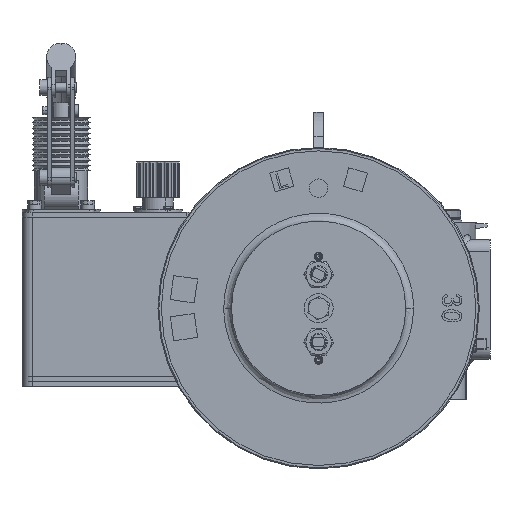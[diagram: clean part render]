
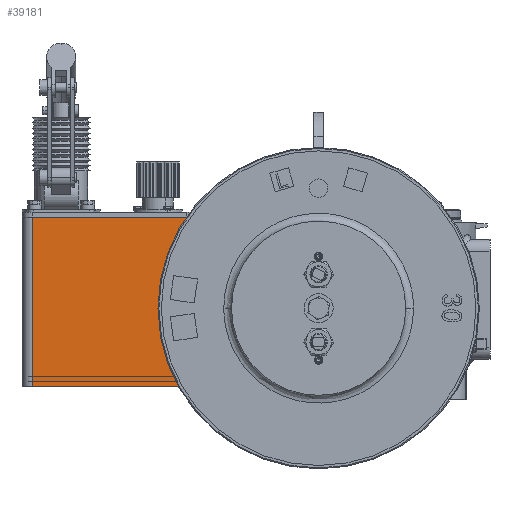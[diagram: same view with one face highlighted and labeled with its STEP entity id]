
A CAD part, left-side view. The second image highlights one B-rep face of the part: STEP entity #39181.
In plain terms, the highlighted planar face has unit normal (-1, 0, 0).
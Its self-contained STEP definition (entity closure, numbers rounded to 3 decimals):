
#329 = CARTESIAN_POINT ( 'NONE',  ( -88.523, 171.296, 96. ) ) ;
#1792 = CARTESIAN_POINT ( 'NONE',  ( -88.523, 251.296, 96. ) ) ;
#2209 = LINE ( 'NONE', #1792, #87276 ) ;
#2930 = DIRECTION ( 'NONE',  ( 0., 1., 0. ) ) ;
#7576 = DIRECTION ( 'NONE',  ( 0., 1., 0. ) ) ;
#10989 = ORIENTED_EDGE ( 'NONE', *, *, #80178, .T. ) ;
#11116 = LINE ( 'NONE', #43551, #45806 ) ;
#12350 = VERTEX_POINT ( 'NONE', #31992 ) ;
#12434 = DIRECTION ( 'NONE',  ( 0., 1., 0. ) ) ;
#12694 = CARTESIAN_POINT ( 'NONE',  ( -88.523, 171.296, 8.5 ) ) ;
#17817 = EDGE_CURVE ( 'NONE', #73047, #12350, #19367, .T. ) ;
#18019 = FACE_OUTER_BOUND ( 'NONE', #45332, .T. ) ;
#19135 = CARTESIAN_POINT ( 'NONE',  ( -88.523, 251.296, -79. ) ) ;
#19367 = LINE ( 'NONE', #12694, #85714 ) ;
#23798 = DIRECTION ( 'NONE',  ( 1., 0., 0. ) ) ;
#28184 = ORIENTED_EDGE ( 'NONE', *, *, #36407, .T. ) ;
#30510 = ORIENTED_EDGE ( 'NONE', *, *, #77526, .F. ) ;
#31992 = CARTESIAN_POINT ( 'NONE',  ( -88.523, 171.296, -79. ) ) ;
#34971 = AXIS2_PLACEMENT_3D ( 'NONE', #84316, #23798, #2930 ) ;
#36407 = EDGE_CURVE ( 'NONE', #73047, #50694, #2209, .T. ) ;
#39181 = ADVANCED_FACE ( 'NONE', ( #18019 ), #50495, .F. ) ;
#40422 = LINE ( 'NONE', #19135, #49727 ) ;
#41195 = ORIENTED_EDGE ( 'NONE', *, *, #17817, .F. ) ;
#41946 = CARTESIAN_POINT ( 'NONE',  ( -88.523, 331.296, 96. ) ) ;
#43551 = CARTESIAN_POINT ( 'NONE',  ( -88.523, 331.296, 8.5 ) ) ;
#45332 = EDGE_LOOP ( 'NONE', ( #41195, #28184, #10989, #30510 ) ) ;
#45806 = VECTOR ( 'NONE', #51137, 1000. ) ;
#49727 = VECTOR ( 'NONE', #12434, 1000. ) ;
#50495 = PLANE ( 'NONE',  #34971 ) ;
#50694 = VERTEX_POINT ( 'NONE', #41946 ) ;
#51137 = DIRECTION ( 'NONE',  ( 0., 0., -1. ) ) ;
#55884 = CARTESIAN_POINT ( 'NONE',  ( -88.523, 331.296, -79. ) ) ;
#60979 = VERTEX_POINT ( 'NONE', #55884 ) ;
#66085 = DIRECTION ( 'NONE',  ( 0., 0., -1. ) ) ;
#73047 = VERTEX_POINT ( 'NONE', #329 ) ;
#77526 = EDGE_CURVE ( 'NONE', #12350, #60979, #40422, .T. ) ;
#80178 = EDGE_CURVE ( 'NONE', #50694, #60979, #11116, .T. ) ;
#84316 = CARTESIAN_POINT ( 'NONE',  ( -88.523, 171.296, -79. ) ) ;
#85714 = VECTOR ( 'NONE', #66085, 1000. ) ;
#87276 = VECTOR ( 'NONE', #7576, 1000. ) ;
